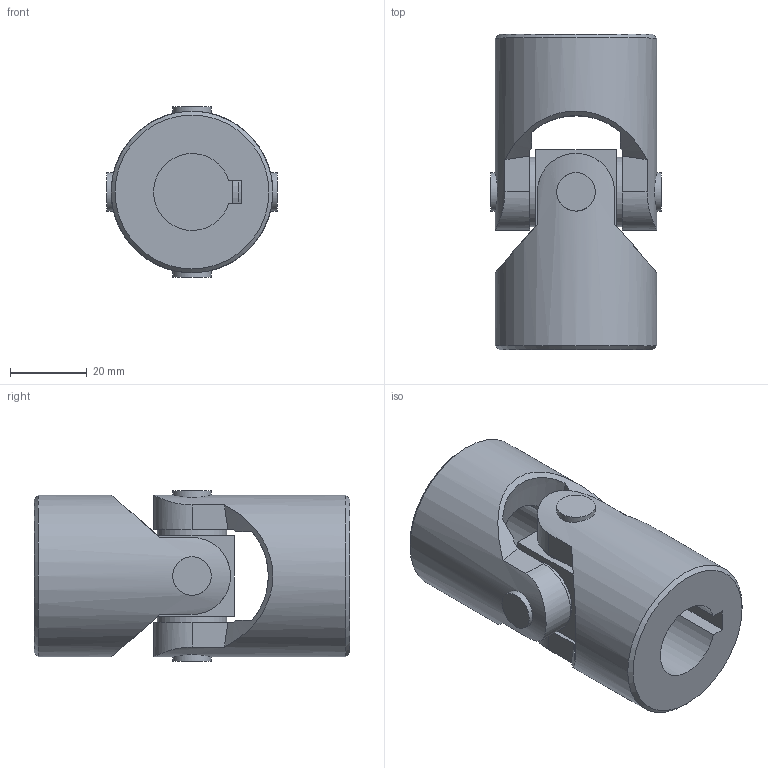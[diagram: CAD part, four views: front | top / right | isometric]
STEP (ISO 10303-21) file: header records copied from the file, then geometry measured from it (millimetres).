
FILE_DESCRIPTION(/* description */ ('STAINLESS STEEL SINGLE JOINTS Series X DIN 808 -2-'),/* implementation_level */ '2;1');
FILE_NAME(/* name */ '\\SRV2016\societa\Stefano\Disegni 3D\0Catalogo 3D\13Singoli X\Ø42_3X_SX0S202C.stp',/* time_stamp */ '2023-05-12T16:13:52+02:00',/* author */ ('acquisti'),/* organization */ ('MARIOFERRI'),/* preprocessor_version */ 'ST-DEVELOPER v15.6',/* originating_system */ 'Autodesk Inventor 2015',/* authorisation */ '');
FILE_SCHEMA (('AUTOMOTIVE_DESIGN { 1 0 10303 214 3 1 1 }'));
Length unit declared in the file: millimetre
Products named in the file (3): 3X SFE; 3X MOC; Ø42_3X_SX0S2000
Assembly tree (3 placements, depth 2):
  Ø42_3X_SX0S2000
    3X SFE
    3X MOC  x2
Bounding box: 44.4 x 82 x 44.4 mm (x, y, z)
Volume: 77364 mm3; surface area: 21937.6 mm2
Topology: 3 solids, 3 shells, 70 faces, 182 edges, 124 vertices
Faces by surface type: plane 38, cylinder 18, cone 12, torus 2
Full cylindrical faces by diameter (mm): 10 x4, 18 x4, 42 x2
Entity records: 1434 total; most frequent: CARTESIAN_POINT 448, DIRECTION 187, ORIENTED_EDGE 182, EDGE_CURVE 91, AXIS2_PLACEMENT_3D 77, VERTEX_POINT 67, EDGE_LOOP 58, FACE_OUTER_BOUND 42
